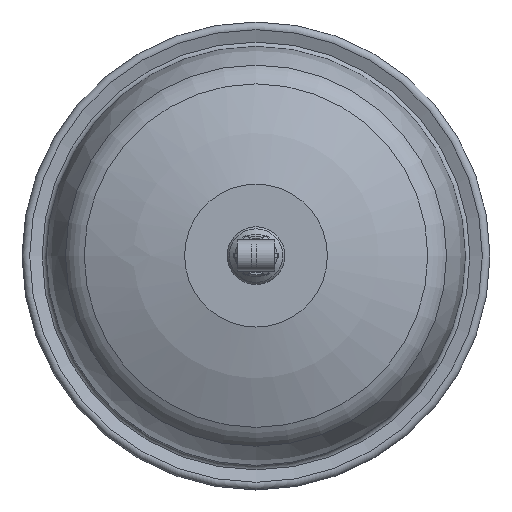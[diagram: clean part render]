
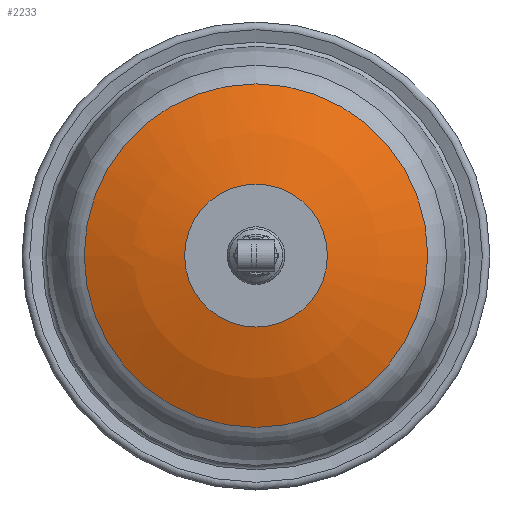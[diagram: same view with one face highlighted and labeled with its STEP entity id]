
A CAD part, top view. The second image highlights one B-rep face of the part: STEP entity #2233.
In plain terms, the highlighted spherical face has radius 256.55 mm.
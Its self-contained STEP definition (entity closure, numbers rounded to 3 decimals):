
#102=SPHERICAL_SURFACE('',#2406,256.55);
#663=FACE_OUTER_BOUND('',#780,.T.);
#780=EDGE_LOOP('',(#1647,#1648,#1649,#1650,#1651,#1652));
#926=CIRCLE('',#2403,104.975);
#927=CIRCLE('',#2404,104.975);
#929=CIRCLE('',#2407,43.652);
#930=CIRCLE('',#2408,43.652);
#931=CIRCLE('',#2409,256.55);
#1043=VERTEX_POINT('',#3413);
#1044=VERTEX_POINT('',#3414);
#1045=VERTEX_POINT('',#3419);
#1046=VERTEX_POINT('',#3420);
#1277=EDGE_CURVE('',#1043,#1044,#926,.T.);
#1278=EDGE_CURVE('',#1044,#1043,#927,.T.);
#1280=EDGE_CURVE('',#1045,#1046,#929,.T.);
#1281=EDGE_CURVE('',#1046,#1045,#930,.T.);
#1282=EDGE_CURVE('',#1046,#1044,#931,.T.);
#1647=ORIENTED_EDGE('',*,*,#1280,.F.);
#1648=ORIENTED_EDGE('',*,*,#1281,.F.);
#1649=ORIENTED_EDGE('',*,*,#1282,.T.);
#1650=ORIENTED_EDGE('',*,*,#1278,.T.);
#1651=ORIENTED_EDGE('',*,*,#1277,.T.);
#1652=ORIENTED_EDGE('',*,*,#1282,.F.);
#2233=ADVANCED_FACE('',(#663),#102,.T.);
#2403=AXIS2_PLACEMENT_3D('',#3415,#2696,#2697);
#2404=AXIS2_PLACEMENT_3D('',#3416,#2698,#2699);
#2406=AXIS2_PLACEMENT_3D('',#3418,#2702,#2703);
#2407=AXIS2_PLACEMENT_3D('',#3421,#2704,#2705);
#2408=AXIS2_PLACEMENT_3D('',#3422,#2706,#2707);
#2409=AXIS2_PLACEMENT_3D('',#3423,#2708,#2709);
#2696=DIRECTION('center_axis',(0.,0.,1.));
#2697=DIRECTION('ref_axis',(1.,0.,0.));
#2698=DIRECTION('center_axis',(0.,0.,1.));
#2699=DIRECTION('ref_axis',(1.,0.,0.));
#2702=DIRECTION('center_axis',(0.,0.,1.));
#2703=DIRECTION('ref_axis',(1.,0.,0.));
#2704=DIRECTION('center_axis',(0.,0.,1.));
#2705=DIRECTION('ref_axis',(1.,0.,0.));
#2706=DIRECTION('center_axis',(0.,0.,1.));
#2707=DIRECTION('ref_axis',(1.,0.,0.));
#2708=DIRECTION('center_axis',(0.,-1.,0.));
#2709=DIRECTION('ref_axis',(-1.,0.,0.));
#3413=CARTESIAN_POINT('',(104.975,0.,-38.669));
#3414=CARTESIAN_POINT('',(-104.975,0.,-38.669));
#3415=CARTESIAN_POINT('Origin',(0.,0.,-38.669));
#3416=CARTESIAN_POINT('Origin',(0.,0.,-38.669));
#3418=CARTESIAN_POINT('Origin',(0.,0.,-272.759));
#3419=CARTESIAN_POINT('',(43.652,0.,-19.95));
#3420=CARTESIAN_POINT('',(-43.652,0.,-19.95));
#3421=CARTESIAN_POINT('Origin',(0.,0.,-19.95));
#3422=CARTESIAN_POINT('Origin',(0.,0.,-19.95));
#3423=CARTESIAN_POINT('Origin',(0.,0.,-272.759));
